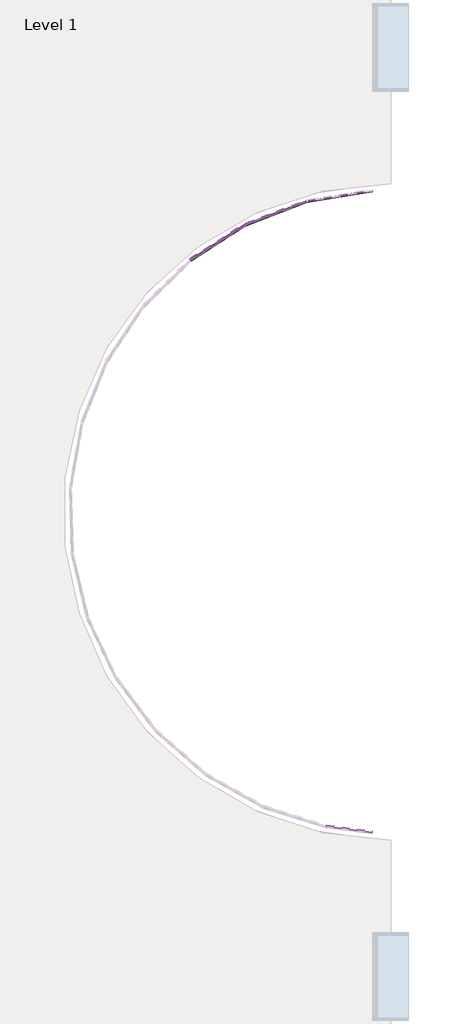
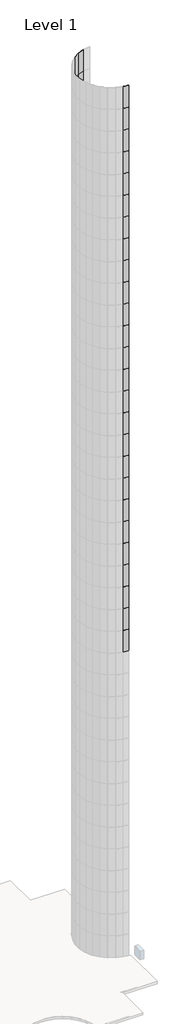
# One storey, part 14 of 19: 129 plates.
"""IFC4 building model written with IfcOpenShell, lengths in millimetres."""

from ifc_helpers import new_model, si_unit, origin, place, context, project, spatial, transform, mapped, element, save
from components import system_panel_glazed_d77d1ebf, system_panel_glazed_769dbdec

model = new_model("IFC4")

# Units and contexts
model_context = context("Model", 3, world=origin())
ifc_project = project(units=[si_unit("LENGTHUNIT", "METRE", prefix="MILLI")], contexts=[model_context])

# Site, building, storey
site = spatial("IfcSite", under=ifc_project)
building = spatial("IfcBuilding", under=site)
storey = spatial("IfcBuildingStorey", under=building, Name="Level 1", Elevation=0.0)

# Plates
placement = place(None, origin())
system_panel_glazed_shape = system_panel_glazed_d77d1ebf(model_context)
element("IfcPlate", 1, ObjectType="System Panel : Glazed", at=placement, inside=storey, context=model_context, shape_type="MappedRepresentation", body=[
    mapped(system_panel_glazed_shape, transform((18055.406941, -1819.8011089, 0.0), x_axis=(-0.9873252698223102, -0.1587098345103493, 0.0), y_axis=(0.1587098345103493, -0.9873252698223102, 0.0), z_axis=(0.0, 0.0, 1.0))),
])
element("IfcPlate", 2, ObjectType="System Panel : Glazed", at=placement, inside=storey, context=model_context, shape_type="MappedRepresentation", body=[
    mapped(system_panel_glazed_shape, transform((18055.406941, -1819.8011089, 3048.0), x_axis=(-0.9873252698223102, -0.1587098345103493, 0.0), y_axis=(0.1587098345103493, -0.9873252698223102, 0.0), z_axis=(0.0, 0.0, 1.0))),
])
element("IfcPlate", 3, ObjectType="System Panel : Glazed", at=placement, inside=storey, context=model_context, shape_type="MappedRepresentation", body=[
    mapped(system_panel_glazed_shape, transform((18055.406941, -1819.8011089, 6096.0), x_axis=(-0.9873252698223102, -0.1587098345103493, 0.0), y_axis=(0.1587098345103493, -0.9873252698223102, 0.0), z_axis=(0.0, 0.0, 1.0))),
])
element("IfcPlate", 4, ObjectType="System Panel : Glazed", at=placement, inside=storey, context=model_context, shape_type="MappedRepresentation", body=[
    mapped(system_panel_glazed_shape, transform((18055.406941, -1819.8011089, 9144.0), x_axis=(-0.9873252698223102, -0.1587098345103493, 0.0), y_axis=(0.1587098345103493, -0.9873252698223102, 0.0), z_axis=(0.0, 0.0, 1.0))),
])
element("IfcPlate", 5, ObjectType="System Panel : Glazed", at=placement, inside=storey, context=model_context, shape_type="MappedRepresentation", body=[
    mapped(system_panel_glazed_shape, transform((18055.406941, -1819.8011089, 12192.0), x_axis=(-0.9873252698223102, -0.1587098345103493, 0.0), y_axis=(0.1587098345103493, -0.9873252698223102, 0.0), z_axis=(0.0, 0.0, 1.0))),
])
element("IfcPlate", 6, ObjectType="System Panel : Glazed", at=placement, inside=storey, context=model_context, shape_type="MappedRepresentation", body=[
    mapped(system_panel_glazed_shape, transform((18055.406941, -1819.8011089, 15240.0), x_axis=(-0.9873252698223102, -0.1587098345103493, 0.0), y_axis=(0.1587098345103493, -0.9873252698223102, 0.0), z_axis=(0.0, 0.0, 1.0))),
])
element("IfcPlate", 7, ObjectType="System Panel : Glazed", at=placement, inside=storey, context=model_context, shape_type="MappedRepresentation", body=[
    mapped(system_panel_glazed_shape, transform((18055.406941, -1819.8011089, 18288.0), x_axis=(-0.9873252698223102, -0.15870983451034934, 0.0), y_axis=(0.15870983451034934, -0.9873252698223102, 0.0), z_axis=(0.0, 0.0, 1.0))),
])
element("IfcPlate", 8, ObjectType="System Panel : Glazed", at=placement, inside=storey, context=model_context, shape_type="MappedRepresentation", body=[
    mapped(system_panel_glazed_shape, transform((18055.406941, -1819.8011089, 21336.0), x_axis=(-0.9873252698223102, -0.1587098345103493, 0.0), y_axis=(0.1587098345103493, -0.9873252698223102, 0.0), z_axis=(0.0, 0.0, 1.0))),
])
element("IfcPlate", 9, ObjectType="System Panel : Glazed", at=placement, inside=storey, context=model_context, shape_type="MappedRepresentation", body=[
    mapped(system_panel_glazed_shape, transform((18055.406941, -1819.8011089, 24384.0), x_axis=(-0.9873252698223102, -0.1587098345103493, 0.0), y_axis=(0.1587098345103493, -0.9873252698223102, 0.0), z_axis=(0.0, 0.0, 1.0))),
])
element("IfcPlate", 10, ObjectType="System Panel : Glazed", at=placement, inside=storey, context=model_context, shape_type="MappedRepresentation", body=[
    mapped(system_panel_glazed_shape, transform((18055.406941, -1819.8011089, 27432.0), x_axis=(-0.9873252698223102, -0.1587098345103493, 0.0), y_axis=(0.1587098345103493, -0.9873252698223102, 0.0), z_axis=(0.0, 0.0, 1.0))),
])
element("IfcPlate", 11, ObjectType="System Panel : Glazed", at=placement, inside=storey, context=model_context, shape_type="MappedRepresentation", body=[
    mapped(system_panel_glazed_shape, transform((18055.406941, -1819.8011089, 30480.0), x_axis=(-0.9873252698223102, -0.1587098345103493, 0.0), y_axis=(0.1587098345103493, -0.9873252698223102, 0.0), z_axis=(0.0, 0.0, 1.0))),
])
element("IfcPlate", 12, ObjectType="System Panel : Glazed", at=placement, inside=storey, context=model_context, shape_type="MappedRepresentation", body=[
    mapped(system_panel_glazed_shape, transform((18055.406941, -1819.8011089, 33528.0), x_axis=(-0.9873252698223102, -0.1587098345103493, 0.0), y_axis=(0.1587098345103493, -0.9873252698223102, 0.0), z_axis=(0.0, 0.0, 1.0))),
])
element("IfcPlate", 13, ObjectType="System Panel : Glazed", at=placement, inside=storey, context=model_context, shape_type="MappedRepresentation", body=[
    mapped(system_panel_glazed_shape, transform((18055.406941, -1819.8011089, 36576.0), x_axis=(-0.9873252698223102, -0.1587098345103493, 0.0), y_axis=(0.1587098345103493, -0.9873252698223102, 0.0), z_axis=(0.0, 0.0, 1.0))),
])
element("IfcPlate", 14, ObjectType="System Panel : Glazed", at=placement, inside=storey, context=model_context, shape_type="MappedRepresentation", body=[
    mapped(system_panel_glazed_shape, transform((18055.406941, -1819.8011089, 39624.0), x_axis=(-0.9873252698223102, -0.1587098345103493, 0.0), y_axis=(0.1587098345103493, -0.9873252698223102, 0.0), z_axis=(0.0, 0.0, 1.0))),
])
element("IfcPlate", 15, ObjectType="System Panel : Glazed", at=placement, inside=storey, context=model_context, shape_type="MappedRepresentation", body=[
    mapped(system_panel_glazed_shape, transform((18055.406941, -1819.8011089, 42672.0), x_axis=(-0.9873252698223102, -0.1587098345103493, 0.0), y_axis=(0.1587098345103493, -0.9873252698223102, 0.0), z_axis=(0.0, 0.0, 1.0))),
])
element("IfcPlate", 16, ObjectType="System Panel : Glazed", at=placement, inside=storey, context=model_context, shape_type="MappedRepresentation", body=[
    mapped(system_panel_glazed_shape, transform((18055.406941, -1819.8011089, 45720.0), x_axis=(-0.9873252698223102, -0.1587098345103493, 0.0), y_axis=(0.1587098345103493, -0.9873252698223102, 0.0), z_axis=(0.0, 0.0, 1.0))),
])
element("IfcPlate", 17, ObjectType="System Panel : Glazed", at=placement, inside=storey, context=model_context, shape_type="MappedRepresentation", body=[
    mapped(system_panel_glazed_shape, transform((18055.406941, -1819.8011089, 48768.0), x_axis=(-0.9873252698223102, -0.1587098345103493, 0.0), y_axis=(0.1587098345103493, -0.9873252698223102, 0.0), z_axis=(0.0, 0.0, 1.0))),
])
element("IfcPlate", 18, ObjectType="System Panel : Glazed", at=placement, inside=storey, context=model_context, shape_type="MappedRepresentation", body=[
    mapped(system_panel_glazed_shape, transform((18055.406941, -1819.8011089, 51816.0), x_axis=(-0.9873252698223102, -0.1587098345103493, 0.0), y_axis=(0.1587098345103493, -0.9873252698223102, 0.0), z_axis=(0.0, 0.0, 1.0))),
])
element("IfcPlate", 19, ObjectType="System Panel : Glazed", at=placement, inside=storey, context=model_context, shape_type="MappedRepresentation", body=[
    mapped(system_panel_glazed_shape, transform((18055.406941, -1819.8011089, 54864.0), x_axis=(-0.9873252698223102, -0.1587098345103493, 0.0), y_axis=(0.1587098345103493, -0.9873252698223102, 0.0), z_axis=(0.0, 0.0, 1.0))),
])
element("IfcPlate", 20, ObjectType="System Panel : Glazed", at=placement, inside=storey, context=model_context, shape_type="MappedRepresentation", body=[
    mapped(system_panel_glazed_shape, transform((18055.406941, -1819.8011089, 57912.0), x_axis=(-0.9873252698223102, -0.1587098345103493, 0.0), y_axis=(0.1587098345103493, -0.9873252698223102, 0.0), z_axis=(0.0, 0.0, 1.0))),
])
element("IfcPlate", 21, ObjectType="System Panel : Glazed", at=placement, inside=storey, context=model_context, shape_type="MappedRepresentation", body=[
    mapped(system_panel_glazed_shape, transform((18055.406941, -1819.8011089, 60960.0), x_axis=(-0.9873252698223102, -0.1587098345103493, 0.0), y_axis=(0.1587098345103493, -0.9873252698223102, 0.0), z_axis=(0.0, 0.0, 1.0))),
])
element("IfcPlate", 22, ObjectType="System Panel : Glazed", at=placement, inside=storey, context=model_context, shape_type="MappedRepresentation", body=[
    mapped(system_panel_glazed_shape, transform((18055.406941, -1819.8011089, 64008.0), x_axis=(-0.9873252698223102, -0.1587098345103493, 0.0), y_axis=(0.1587098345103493, -0.9873252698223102, 0.0), z_axis=(0.0, 0.0, 1.0))),
])
element("IfcPlate", 23, ObjectType="System Panel : Glazed", at=placement, inside=storey, context=model_context, shape_type="MappedRepresentation", body=[
    mapped(system_panel_glazed_shape, transform((18055.406941, -1819.8011089, 67056.0), x_axis=(-0.9873252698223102, -0.1587098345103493, 0.0), y_axis=(0.1587098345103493, -0.9873252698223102, 0.0), z_axis=(0.0, 0.0, 1.0))),
])
element("IfcPlate", 24, ObjectType="System Panel : Glazed", at=placement, inside=storey, context=model_context, shape_type="MappedRepresentation", body=[
    mapped(system_panel_glazed_shape, transform((17176.9718599, -2055.6949526, 0.0), x_axis=(-0.9340113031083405, -0.3572434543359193, 0.0), y_axis=(0.3572434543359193, -0.9340113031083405, 0.0), z_axis=(0.0, 0.0, 1.0))),
])
element("IfcPlate", 25, ObjectType="System Panel : Glazed", at=placement, inside=storey, context=model_context, shape_type="MappedRepresentation", body=[
    mapped(system_panel_glazed_shape, transform((17176.9718599, -2055.6949526, 3048.0), x_axis=(-0.9340113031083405, -0.3572434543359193, 0.0), y_axis=(0.3572434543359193, -0.9340113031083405, 0.0), z_axis=(0.0, 0.0, 1.0))),
])
element("IfcPlate", 26, ObjectType="System Panel : Glazed", at=placement, inside=storey, context=model_context, shape_type="MappedRepresentation", body=[
    mapped(system_panel_glazed_shape, transform((17176.9718599, -2055.6949526, 6096.0), x_axis=(-0.9340113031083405, -0.3572434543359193, 0.0), y_axis=(0.3572434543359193, -0.9340113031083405, 0.0), z_axis=(0.0, 0.0, 1.0))),
])
element("IfcPlate", 27, ObjectType="System Panel : Glazed", at=placement, inside=storey, context=model_context, shape_type="MappedRepresentation", body=[
    mapped(system_panel_glazed_shape, transform((17176.9718599, -2055.6949526, 9144.0), x_axis=(-0.9340113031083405, -0.3572434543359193, 0.0), y_axis=(0.3572434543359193, -0.9340113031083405, 0.0), z_axis=(0.0, 0.0, 1.0))),
])
element("IfcPlate", 28, ObjectType="System Panel : Glazed", at=placement, inside=storey, context=model_context, shape_type="MappedRepresentation", body=[
    mapped(system_panel_glazed_shape, transform((17176.9718599, -2055.6949526, 12192.0), x_axis=(-0.9340113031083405, -0.3572434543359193, 0.0), y_axis=(0.3572434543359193, -0.9340113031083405, 0.0), z_axis=(0.0, 0.0, 1.0))),
])
element("IfcPlate", 29, ObjectType="System Panel : Glazed", at=placement, inside=storey, context=model_context, shape_type="MappedRepresentation", body=[
    mapped(system_panel_glazed_shape, transform((17176.9718599, -2055.6949526, 15240.0), x_axis=(-0.9340113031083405, -0.3572434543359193, 0.0), y_axis=(0.3572434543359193, -0.9340113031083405, 0.0), z_axis=(0.0, 0.0, 1.0))),
])
element("IfcPlate", 30, ObjectType="System Panel : Glazed", at=placement, inside=storey, context=model_context, shape_type="MappedRepresentation", body=[
    mapped(system_panel_glazed_shape, transform((17176.9718599, -2055.6949526, 18288.0), x_axis=(-0.9340113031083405, -0.35724345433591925, 0.0), y_axis=(0.35724345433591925, -0.9340113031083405, 0.0), z_axis=(0.0, 0.0, 1.0))),
])
element("IfcPlate", 31, ObjectType="System Panel : Glazed", at=placement, inside=storey, context=model_context, shape_type="MappedRepresentation", body=[
    mapped(system_panel_glazed_shape, transform((17176.9718599, -2055.6949526, 21336.0), x_axis=(-0.9340113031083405, -0.3572434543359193, 0.0), y_axis=(0.3572434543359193, -0.9340113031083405, 0.0), z_axis=(0.0, 0.0, 1.0))),
])
element("IfcPlate", 32, ObjectType="System Panel : Glazed", at=placement, inside=storey, context=model_context, shape_type="MappedRepresentation", body=[
    mapped(system_panel_glazed_shape, transform((17176.9718599, -2055.6949526, 24384.0), x_axis=(-0.9340113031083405, -0.3572434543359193, 0.0), y_axis=(0.3572434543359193, -0.9340113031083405, 0.0), z_axis=(0.0, 0.0, 1.0))),
])
element("IfcPlate", 33, ObjectType="System Panel : Glazed", at=placement, inside=storey, context=model_context, shape_type="MappedRepresentation", body=[
    mapped(system_panel_glazed_shape, transform((17176.9718599, -2055.6949526, 27432.0), x_axis=(-0.9340113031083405, -0.3572434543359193, 0.0), y_axis=(0.3572434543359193, -0.9340113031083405, 0.0), z_axis=(0.0, 0.0, 1.0))),
])
element("IfcPlate", 34, ObjectType="System Panel : Glazed", at=placement, inside=storey, context=model_context, shape_type="MappedRepresentation", body=[
    mapped(system_panel_glazed_shape, transform((17176.9718599, -2055.6949526, 30480.0), x_axis=(-0.9340113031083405, -0.3572434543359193, 0.0), y_axis=(0.3572434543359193, -0.9340113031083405, 0.0), z_axis=(0.0, 0.0, 1.0))),
])
element("IfcPlate", 35, ObjectType="System Panel : Glazed", at=placement, inside=storey, context=model_context, shape_type="MappedRepresentation", body=[
    mapped(system_panel_glazed_shape, transform((17176.9718599, -2055.6949526, 33528.0), x_axis=(-0.9340113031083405, -0.3572434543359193, 0.0), y_axis=(0.3572434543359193, -0.9340113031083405, 0.0), z_axis=(0.0, 0.0, 1.0))),
])
element("IfcPlate", 36, ObjectType="System Panel : Glazed", at=placement, inside=storey, context=model_context, shape_type="MappedRepresentation", body=[
    mapped(system_panel_glazed_shape, transform((17176.9718599, -2055.6949526, 36576.0), x_axis=(-0.9340113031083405, -0.3572434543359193, 0.0), y_axis=(0.3572434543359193, -0.9340113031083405, 0.0), z_axis=(0.0, 0.0, 1.0))),
])
element("IfcPlate", 37, ObjectType="System Panel : Glazed", at=placement, inside=storey, context=model_context, shape_type="MappedRepresentation", body=[
    mapped(system_panel_glazed_shape, transform((17176.9718599, -2055.6949526, 39624.0), x_axis=(-0.9340113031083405, -0.3572434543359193, 0.0), y_axis=(0.3572434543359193, -0.9340113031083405, 0.0), z_axis=(0.0, 0.0, 1.0))),
])
element("IfcPlate", 38, ObjectType="System Panel : Glazed", at=placement, inside=storey, context=model_context, shape_type="MappedRepresentation", body=[
    mapped(system_panel_glazed_shape, transform((17176.9718599, -2055.6949526, 42672.0), x_axis=(-0.9340113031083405, -0.3572434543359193, 0.0), y_axis=(0.3572434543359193, -0.9340113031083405, 0.0), z_axis=(0.0, 0.0, 1.0))),
])
element("IfcPlate", 39, ObjectType="System Panel : Glazed", at=placement, inside=storey, context=model_context, shape_type="MappedRepresentation", body=[
    mapped(system_panel_glazed_shape, transform((17176.9718599, -2055.6949526, 45720.0), x_axis=(-0.9340113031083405, -0.3572434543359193, 0.0), y_axis=(0.3572434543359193, -0.9340113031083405, 0.0), z_axis=(0.0, 0.0, 1.0))),
])
element("IfcPlate", 40, ObjectType="System Panel : Glazed", at=placement, inside=storey, context=model_context, shape_type="MappedRepresentation", body=[
    mapped(system_panel_glazed_shape, transform((17176.9718599, -2055.6949526, 48768.0), x_axis=(-0.9340113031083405, -0.3572434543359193, 0.0), y_axis=(0.3572434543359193, -0.9340113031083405, 0.0), z_axis=(0.0, 0.0, 1.0))),
])
element("IfcPlate", 41, ObjectType="System Panel : Glazed", at=placement, inside=storey, context=model_context, shape_type="MappedRepresentation", body=[
    mapped(system_panel_glazed_shape, transform((17176.9718599, -2055.6949526, 51816.0), x_axis=(-0.9340113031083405, -0.3572434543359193, 0.0), y_axis=(0.3572434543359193, -0.9340113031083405, 0.0), z_axis=(0.0, 0.0, 1.0))),
])
element("IfcPlate", 42, ObjectType="System Panel : Glazed", at=placement, inside=storey, context=model_context, shape_type="MappedRepresentation", body=[
    mapped(system_panel_glazed_shape, transform((17176.9718599, -2055.6949526, 54864.0), x_axis=(-0.9340113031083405, -0.3572434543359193, 0.0), y_axis=(0.3572434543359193, -0.9340113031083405, 0.0), z_axis=(0.0, 0.0, 1.0))),
])
element("IfcPlate", 43, ObjectType="System Panel : Glazed", at=placement, inside=storey, context=model_context, shape_type="MappedRepresentation", body=[
    mapped(system_panel_glazed_shape, transform((17176.9718599, -2055.6949526, 57912.0), x_axis=(-0.9340113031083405, -0.3572434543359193, 0.0), y_axis=(0.3572434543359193, -0.9340113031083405, 0.0), z_axis=(0.0, 0.0, 1.0))),
])
element("IfcPlate", 44, ObjectType="System Panel : Glazed", at=placement, inside=storey, context=model_context, shape_type="MappedRepresentation", body=[
    mapped(system_panel_glazed_shape, transform((17176.9718599, -2055.6949526, 60960.0), x_axis=(-0.9340113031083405, -0.3572434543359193, 0.0), y_axis=(0.3572434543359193, -0.9340113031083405, 0.0), z_axis=(0.0, 0.0, 1.0))),
])
element("IfcPlate", 45, ObjectType="System Panel : Glazed", at=placement, inside=storey, context=model_context, shape_type="MappedRepresentation", body=[
    mapped(system_panel_glazed_shape, transform((17176.9718599, -2055.6949526, 64008.0), x_axis=(-0.9340113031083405, -0.3572434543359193, 0.0), y_axis=(0.3572434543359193, -0.9340113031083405, 0.0), z_axis=(0.0, 0.0, 1.0))),
])
element("IfcPlate", 46, ObjectType="System Panel : Glazed", at=placement, inside=storey, context=model_context, shape_type="MappedRepresentation", body=[
    mapped(system_panel_glazed_shape, transform((17176.9718599, -2055.6949526, 67056.0), x_axis=(-0.9340113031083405, -0.3572434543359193, 0.0), y_axis=(0.3572434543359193, -0.9340113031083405, 0.0), z_axis=(0.0, 0.0, 1.0))),
])
element("IfcPlate", 47, ObjectType="System Panel : Glazed", at=placement, inside=storey, context=model_context, shape_type="MappedRepresentation", body=[
    mapped(system_panel_glazed_shape, transform((17176.9718599, -2055.6949526, 70104.0), x_axis=(-0.9340113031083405, -0.3572434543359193, 0.0), y_axis=(0.3572434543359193, -0.9340113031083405, 0.0), z_axis=(0.0, 0.0, 1.0))),
])
element("IfcPlate", 48, ObjectType="System Panel : Glazed", at=placement, inside=storey, context=model_context, shape_type="MappedRepresentation", body=[
    mapped(system_panel_glazed_shape, transform((17176.9718599, -2055.6949526, 73152.0), x_axis=(-0.9340113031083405, -0.3572434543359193, 0.0), y_axis=(0.3572434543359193, -0.9340113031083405, 0.0), z_axis=(0.0, 0.0, 1.0))),
])
element("IfcPlate", 49, ObjectType="System Panel : Glazed", at=placement, inside=storey, context=model_context, shape_type="MappedRepresentation", body=[
    mapped(system_panel_glazed_shape, transform((17176.9718599, -2055.6949526, 76200.0), x_axis=(-0.9340113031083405, -0.3572434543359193, 0.0), y_axis=(0.3572434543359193, -0.9340113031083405, 0.0), z_axis=(0.0, 0.0, 1.0))),
])
element("IfcPlate", 50, ObjectType="System Panel : Glazed", at=placement, inside=storey, context=model_context, shape_type="MappedRepresentation", body=[
    mapped(system_panel_glazed_shape, transform((17176.9718599, -2055.6949526, 79248.0), x_axis=(-0.9340113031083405, -0.3572434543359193, 0.0), y_axis=(0.3572434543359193, -0.9340113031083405, 0.0), z_axis=(0.0, 0.0, 1.0))),
])
element("IfcPlate", 51, ObjectType="System Panel : Glazed", at=placement, inside=storey, context=model_context, shape_type="MappedRepresentation", body=[
    mapped(system_panel_glazed_shape, transform((17176.9718599, -2055.6949526, 82296.0), x_axis=(-0.9340113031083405, -0.3572434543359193, 0.0), y_axis=(0.3572434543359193, -0.9340113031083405, 0.0), z_axis=(0.0, 0.0, 1.0))),
])
element("IfcPlate", 52, ObjectType="System Panel : Glazed", at=placement, inside=storey, context=model_context, shape_type="MappedRepresentation", body=[
    mapped(system_panel_glazed_shape, transform((17176.9718599, -2055.6949526, 85344.0), x_axis=(-0.9340113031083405, -0.3572434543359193, 0.0), y_axis=(0.3572434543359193, -0.9340113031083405, 0.0), z_axis=(0.0, 0.0, 1.0))),
])
element("IfcPlate", 53, ObjectType="System Panel : Glazed", at=placement, inside=storey, context=model_context, shape_type="MappedRepresentation", body=[
    mapped(system_panel_glazed_shape, transform((17176.9718599, -2055.6949526, 88392.0), x_axis=(-0.9340113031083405, -0.3572434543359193, 0.0), y_axis=(0.3572434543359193, -0.9340113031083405, 0.0), z_axis=(0.0, 0.0, 1.0))),
])
element("IfcPlate", 54, ObjectType="System Panel : Glazed", at=placement, inside=storey, context=model_context, shape_type="MappedRepresentation", body=[
    mapped(system_panel_glazed_shape, transform((17176.9718599, -2055.6949526, 91440.0), x_axis=(-0.9340113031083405, -0.3572434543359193, 0.0), y_axis=(0.3572434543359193, -0.9340113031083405, 0.0), z_axis=(0.0, 0.0, 1.0))),
])
element("IfcPlate", 55, ObjectType="System Panel : Glazed", at=placement, inside=storey, context=model_context, shape_type="MappedRepresentation", body=[
    mapped(system_panel_glazed_shape, transform((17176.9718599, -2055.6949526, 94488.0), x_axis=(-0.9340113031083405, -0.3572434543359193, 0.0), y_axis=(0.3572434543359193, -0.9340113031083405, 0.0), z_axis=(0.0, 0.0, 1.0))),
])
element("IfcPlate", 56, ObjectType="System Panel : Glazed", at=placement, inside=storey, context=model_context, shape_type="MappedRepresentation", body=[
    mapped(system_panel_glazed_shape, transform((17176.9718599, -2055.6949526, 97536.0), x_axis=(-0.9340113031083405, -0.3572434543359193, 0.0), y_axis=(0.3572434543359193, -0.9340113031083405, 0.0), z_axis=(0.0, 0.0, 1.0))),
])
element("IfcPlate", 57, ObjectType="System Panel : Glazed", at=placement, inside=storey, context=model_context, shape_type="MappedRepresentation", body=[
    mapped(system_panel_glazed_shape, transform((17176.9718599, -2055.6949526, 100584.0), x_axis=(-0.9340113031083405, -0.3572434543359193, 0.0), y_axis=(0.3572434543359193, -0.9340113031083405, 0.0), z_axis=(0.0, 0.0, 1.0))),
])
element("IfcPlate", 58, ObjectType="System Panel : Glazed", at=placement, inside=storey, context=model_context, shape_type="MappedRepresentation", body=[
    mapped(system_panel_glazed_shape, transform((16365.3324925, -2466.2258707, 0.0), x_axis=(-0.8412279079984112, -0.5406806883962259, 0.0), y_axis=(0.5406806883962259, -0.8412279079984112, 0.0), z_axis=(0.0, 0.0, 1.0))),
])
element("IfcPlate", 59, ObjectType="System Panel : Glazed", at=placement, inside=storey, context=model_context, shape_type="MappedRepresentation", body=[
    mapped(system_panel_glazed_shape, transform((16365.3324925, -2466.2258707, 3048.0), x_axis=(-0.8412279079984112, -0.5406806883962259, 0.0), y_axis=(0.5406806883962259, -0.8412279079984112, 0.0), z_axis=(0.0, 0.0, 1.0))),
])
element("IfcPlate", 60, ObjectType="System Panel : Glazed", at=placement, inside=storey, context=model_context, shape_type="MappedRepresentation", body=[
    mapped(system_panel_glazed_shape, transform((16365.3324925, -2466.2258707, 6096.0), x_axis=(-0.8412279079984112, -0.5406806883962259, 0.0), y_axis=(0.5406806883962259, -0.8412279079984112, 0.0), z_axis=(0.0, 0.0, 1.0))),
])
element("IfcPlate", 61, ObjectType="System Panel : Glazed", at=placement, inside=storey, context=model_context, shape_type="MappedRepresentation", body=[
    mapped(system_panel_glazed_shape, transform((16365.3324925, -2466.2258707, 9144.0), x_axis=(-0.8412279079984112, -0.5406806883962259, 0.0), y_axis=(0.5406806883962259, -0.8412279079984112, 0.0), z_axis=(0.0, 0.0, 1.0))),
])
element("IfcPlate", 62, ObjectType="System Panel : Glazed", at=placement, inside=storey, context=model_context, shape_type="MappedRepresentation", body=[
    mapped(system_panel_glazed_shape, transform((16365.3324925, -2466.2258707, 12192.0), x_axis=(-0.8412279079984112, -0.5406806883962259, 0.0), y_axis=(0.5406806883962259, -0.8412279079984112, 0.0), z_axis=(0.0, 0.0, 1.0))),
])
element("IfcPlate", 63, ObjectType="System Panel : Glazed", at=placement, inside=storey, context=model_context, shape_type="MappedRepresentation", body=[
    mapped(system_panel_glazed_shape, transform((16365.3324925, -2466.2258707, 15240.0), x_axis=(-0.8412279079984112, -0.5406806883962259, 0.0), y_axis=(0.5406806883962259, -0.8412279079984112, 0.0), z_axis=(0.0, 0.0, 1.0))),
])
element("IfcPlate", 64, ObjectType="System Panel : Glazed", at=placement, inside=storey, context=model_context, shape_type="MappedRepresentation", body=[
    mapped(system_panel_glazed_shape, transform((16365.3324925, -2466.2258707, 18288.0), x_axis=(-0.8412279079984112, -0.5406806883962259, 0.0), y_axis=(0.5406806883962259, -0.8412279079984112, 0.0), z_axis=(0.0, 0.0, 1.0))),
])
element("IfcPlate", 65, ObjectType="System Panel : Glazed", at=placement, inside=storey, context=model_context, shape_type="MappedRepresentation", body=[
    mapped(system_panel_glazed_shape, transform((16365.3324925, -2466.2258707, 21336.0), x_axis=(-0.8412279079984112, -0.5406806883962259, 0.0), y_axis=(0.5406806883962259, -0.8412279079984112, 0.0), z_axis=(0.0, 0.0, 1.0))),
])
element("IfcPlate", 66, ObjectType="System Panel : Glazed", at=placement, inside=storey, context=model_context, shape_type="MappedRepresentation", body=[
    mapped(system_panel_glazed_shape, transform((16365.3324925, -2466.2258707, 24384.0), x_axis=(-0.8412279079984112, -0.5406806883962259, 0.0), y_axis=(0.5406806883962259, -0.8412279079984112, 0.0), z_axis=(0.0, 0.0, 1.0))),
])
element("IfcPlate", 67, ObjectType="System Panel : Glazed", at=placement, inside=storey, context=model_context, shape_type="MappedRepresentation", body=[
    mapped(system_panel_glazed_shape, transform((16365.3324925, -2466.2258707, 27432.0), x_axis=(-0.8412279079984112, -0.5406806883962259, 0.0), y_axis=(0.5406806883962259, -0.8412279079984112, 0.0), z_axis=(0.0, 0.0, 1.0))),
])
element("IfcPlate", 68, ObjectType="System Panel : Glazed", at=placement, inside=storey, context=model_context, shape_type="MappedRepresentation", body=[
    mapped(system_panel_glazed_shape, transform((16365.3324925, -2466.2258707, 30480.0), x_axis=(-0.8412279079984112, -0.5406806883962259, 0.0), y_axis=(0.5406806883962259, -0.8412279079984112, 0.0), z_axis=(0.0, 0.0, 1.0))),
])
element("IfcPlate", 69, ObjectType="System Panel : Glazed", at=placement, inside=storey, context=model_context, shape_type="MappedRepresentation", body=[
    mapped(system_panel_glazed_shape, transform((16365.3324925, -2466.2258707, 33528.0), x_axis=(-0.8412279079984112, -0.5406806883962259, 0.0), y_axis=(0.5406806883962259, -0.8412279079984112, 0.0), z_axis=(0.0, 0.0, 1.0))),
])
element("IfcPlate", 70, ObjectType="System Panel : Glazed", at=placement, inside=storey, context=model_context, shape_type="MappedRepresentation", body=[
    mapped(system_panel_glazed_shape, transform((16365.3324925, -2466.2258707, 36576.0), x_axis=(-0.8412279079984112, -0.5406806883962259, 0.0), y_axis=(0.5406806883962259, -0.8412279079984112, 0.0), z_axis=(0.0, 0.0, 1.0))),
])
element("IfcPlate", 71, ObjectType="System Panel : Glazed", at=placement, inside=storey, context=model_context, shape_type="MappedRepresentation", body=[
    mapped(system_panel_glazed_shape, transform((16365.3324925, -2466.2258707, 39624.0), x_axis=(-0.8412279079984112, -0.5406806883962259, 0.0), y_axis=(0.5406806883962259, -0.8412279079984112, 0.0), z_axis=(0.0, 0.0, 1.0))),
])
element("IfcPlate", 72, ObjectType="System Panel : Glazed", at=placement, inside=storey, context=model_context, shape_type="MappedRepresentation", body=[
    mapped(system_panel_glazed_shape, transform((16365.3324925, -2466.2258707, 42672.0), x_axis=(-0.8412279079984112, -0.5406806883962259, 0.0), y_axis=(0.5406806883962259, -0.8412279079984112, 0.0), z_axis=(0.0, 0.0, 1.0))),
])
element("IfcPlate", 73, ObjectType="System Panel : Glazed", at=placement, inside=storey, context=model_context, shape_type="MappedRepresentation", body=[
    mapped(system_panel_glazed_shape, transform((16365.3324925, -2466.2258707, 45720.0), x_axis=(-0.8412279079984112, -0.5406806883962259, 0.0), y_axis=(0.5406806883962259, -0.8412279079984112, 0.0), z_axis=(0.0, 0.0, 1.0))),
])
element("IfcPlate", 74, ObjectType="System Panel : Glazed", at=placement, inside=storey, context=model_context, shape_type="MappedRepresentation", body=[
    mapped(system_panel_glazed_shape, transform((16365.3324925, -2466.2258707, 48768.0), x_axis=(-0.8412279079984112, -0.5406806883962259, 0.0), y_axis=(0.5406806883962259, -0.8412279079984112, 0.0), z_axis=(0.0, 0.0, 1.0))),
])
element("IfcPlate", 75, ObjectType="System Panel : Glazed", at=placement, inside=storey, context=model_context, shape_type="MappedRepresentation", body=[
    mapped(system_panel_glazed_shape, transform((16365.3324925, -2466.2258707, 51816.0), x_axis=(-0.8412279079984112, -0.5406806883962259, 0.0), y_axis=(0.5406806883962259, -0.8412279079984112, 0.0), z_axis=(0.0, 0.0, 1.0))),
])
element("IfcPlate", 76, ObjectType="System Panel : Glazed", at=placement, inside=storey, context=model_context, shape_type="MappedRepresentation", body=[
    mapped(system_panel_glazed_shape, transform((16365.3324925, -2466.2258707, 54864.0), x_axis=(-0.8412279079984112, -0.5406806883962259, 0.0), y_axis=(0.5406806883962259, -0.8412279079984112, 0.0), z_axis=(0.0, 0.0, 1.0))),
])
element("IfcPlate", 77, ObjectType="System Panel : Glazed", at=placement, inside=storey, context=model_context, shape_type="MappedRepresentation", body=[
    mapped(system_panel_glazed_shape, transform((16365.3324925, -2466.2258707, 57912.0), x_axis=(-0.8412279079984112, -0.5406806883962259, 0.0), y_axis=(0.5406806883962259, -0.8412279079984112, 0.0), z_axis=(0.0, 0.0, 1.0))),
])
element("IfcPlate", 78, ObjectType="System Panel : Glazed", at=placement, inside=storey, context=model_context, shape_type="MappedRepresentation", body=[
    mapped(system_panel_glazed_shape, transform((16365.3324925, -2466.2258707, 60960.0), x_axis=(-0.8412279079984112, -0.5406806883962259, 0.0), y_axis=(0.5406806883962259, -0.8412279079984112, 0.0), z_axis=(0.0, 0.0, 1.0))),
])
element("IfcPlate", 79, ObjectType="System Panel : Glazed", at=placement, inside=storey, context=model_context, shape_type="MappedRepresentation", body=[
    mapped(system_panel_glazed_shape, transform((16365.3324925, -2466.2258707, 64008.0), x_axis=(-0.8412279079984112, -0.5406806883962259, 0.0), y_axis=(0.5406806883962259, -0.8412279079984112, 0.0), z_axis=(0.0, 0.0, 1.0))),
])
element("IfcPlate", 80, ObjectType="System Panel : Glazed", at=placement, inside=storey, context=model_context, shape_type="MappedRepresentation", body=[
    mapped(system_panel_glazed_shape, transform((16365.3324925, -2466.2258707, 67056.0), x_axis=(-0.8412279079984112, -0.5406806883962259, 0.0), y_axis=(0.5406806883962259, -0.8412279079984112, 0.0), z_axis=(0.0, 0.0, 1.0))),
])
element("IfcPlate", 81, ObjectType="System Panel : Glazed", at=placement, inside=storey, context=model_context, shape_type="MappedRepresentation", body=[
    mapped(system_panel_glazed_shape, transform((16365.3324925, -2466.2258707, 70104.0), x_axis=(-0.8412279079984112, -0.5406806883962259, 0.0), y_axis=(0.5406806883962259, -0.8412279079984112, 0.0), z_axis=(0.0, 0.0, 1.0))),
])
element("IfcPlate", 82, ObjectType="System Panel : Glazed", at=placement, inside=storey, context=model_context, shape_type="MappedRepresentation", body=[
    mapped(system_panel_glazed_shape, transform((16365.3324925, -2466.2258707, 73152.0), x_axis=(-0.8412279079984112, -0.5406806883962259, 0.0), y_axis=(0.5406806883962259, -0.8412279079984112, 0.0), z_axis=(0.0, 0.0, 1.0))),
])
element("IfcPlate", 83, ObjectType="System Panel : Glazed", at=placement, inside=storey, context=model_context, shape_type="MappedRepresentation", body=[
    mapped(system_panel_glazed_shape, transform((16365.3324925, -2466.2258707, 76200.0), x_axis=(-0.8412279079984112, -0.5406806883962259, 0.0), y_axis=(0.5406806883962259, -0.8412279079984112, 0.0), z_axis=(0.0, 0.0, 1.0))),
])
element("IfcPlate", 84, ObjectType="System Panel : Glazed", at=placement, inside=storey, context=model_context, shape_type="MappedRepresentation", body=[
    mapped(system_panel_glazed_shape, transform((16365.3324925, -2466.2258707, 79248.0), x_axis=(-0.8412279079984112, -0.5406806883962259, 0.0), y_axis=(0.5406806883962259, -0.8412279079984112, 0.0), z_axis=(0.0, 0.0, 1.0))),
])
element("IfcPlate", 85, ObjectType="System Panel : Glazed", at=placement, inside=storey, context=model_context, shape_type="MappedRepresentation", body=[
    mapped(system_panel_glazed_shape, transform((16365.3324925, -2466.2258707, 82296.0), x_axis=(-0.8412279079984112, -0.5406806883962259, 0.0), y_axis=(0.5406806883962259, -0.8412279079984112, 0.0), z_axis=(0.0, 0.0, 1.0))),
])
element("IfcPlate", 86, ObjectType="System Panel : Glazed", at=placement, inside=storey, context=model_context, shape_type="MappedRepresentation", body=[
    mapped(system_panel_glazed_shape, transform((16365.3324925, -2466.2258707, 85344.0), x_axis=(-0.8412279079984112, -0.5406806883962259, 0.0), y_axis=(0.5406806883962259, -0.8412279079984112, 0.0), z_axis=(0.0, 0.0, 1.0))),
])
element("IfcPlate", 87, ObjectType="System Panel : Glazed", at=placement, inside=storey, context=model_context, shape_type="MappedRepresentation", body=[
    mapped(system_panel_glazed_shape, transform((16365.3324925, -2466.2258707, 88392.0), x_axis=(-0.8412279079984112, -0.5406806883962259, 0.0), y_axis=(0.5406806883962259, -0.8412279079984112, 0.0), z_axis=(0.0, 0.0, 1.0))),
])
element("IfcPlate", 88, ObjectType="System Panel : Glazed", at=placement, inside=storey, context=model_context, shape_type="MappedRepresentation", body=[
    mapped(system_panel_glazed_shape, transform((16365.3324925, -2466.2258707, 91440.0), x_axis=(-0.8412279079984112, -0.5406806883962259, 0.0), y_axis=(0.5406806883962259, -0.8412279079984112, 0.0), z_axis=(0.0, 0.0, 1.0))),
])
element("IfcPlate", 89, ObjectType="System Panel : Glazed", at=placement, inside=storey, context=model_context, shape_type="MappedRepresentation", body=[
    mapped(system_panel_glazed_shape, transform((16365.3324925, -2466.2258707, 94488.0), x_axis=(-0.8412279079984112, -0.5406806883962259, 0.0), y_axis=(0.5406806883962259, -0.8412279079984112, 0.0), z_axis=(0.0, 0.0, 1.0))),
])
element("IfcPlate", 90, ObjectType="System Panel : Glazed", at=placement, inside=storey, context=model_context, shape_type="MappedRepresentation", body=[
    mapped(system_panel_glazed_shape, transform((16365.3324925, -2466.2258707, 97536.0), x_axis=(-0.8412279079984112, -0.5406806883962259, 0.0), y_axis=(0.5406806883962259, -0.8412279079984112, 0.0), z_axis=(0.0, 0.0, 1.0))),
])
element("IfcPlate", 91, ObjectType="System Panel : Glazed", at=placement, inside=storey, context=model_context, shape_type="MappedRepresentation", body=[
    mapped(system_panel_glazed_shape, transform((16365.3324925, -2466.2258707, 100584.0), x_axis=(-0.8412279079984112, -0.5406806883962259, 0.0), y_axis=(0.5406806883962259, -0.8412279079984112, 0.0), z_axis=(0.0, 0.0, 1.0))),
])
element("IfcPlate", 92, ObjectType="System Panel : Glazed", at=placement, inside=storey, context=model_context, shape_type="MappedRepresentation", body=[
    mapped(system_panel_glazed_shape, transform((17176.9718599, -2055.6949526, 103632.0), x_axis=(-0.9340113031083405, -0.3572434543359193, 0.0), y_axis=(0.3572434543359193, -0.9340113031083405, 0.0), z_axis=(0.0, 0.0, 1.0))),
])
element("IfcPlate", 93, ObjectType="System Panel : Glazed", at=placement, inside=storey, context=model_context, shape_type="MappedRepresentation", body=[
    mapped(system_panel_glazed_shape, transform((16365.3324925, -2466.2258707, 103632.0), x_axis=(-0.8412279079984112, -0.5406806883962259, 0.0), y_axis=(0.5406806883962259, -0.8412279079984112, 0.0), z_axis=(0.0, 0.0, 1.0))),
])
element("IfcPlate", 94, ObjectType="System Panel : Glazed", at=placement, inside=storey, context=model_context, shape_type="MappedRepresentation", body=[
    mapped(system_panel_glazed_shape, transform((17176.9718599, -2055.6949526, 106680.0), x_axis=(-0.9340113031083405, -0.3572434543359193, 0.0), y_axis=(0.3572434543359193, -0.9340113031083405, 0.0), z_axis=(0.0, 0.0, 1.0))),
])
element("IfcPlate", 95, ObjectType="System Panel : Glazed", at=placement, inside=storey, context=model_context, shape_type="MappedRepresentation", body=[
    mapped(system_panel_glazed_shape, transform((16365.3324925, -2466.2258707, 106680.0), x_axis=(-0.8412279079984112, -0.5406806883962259, 0.0), y_axis=(0.5406806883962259, -0.8412279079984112, 0.0), z_axis=(0.0, 0.0, 1.0))),
])
element("IfcPlate", 96, ObjectType="System Panel : Glazed", at=placement, inside=storey, context=model_context, shape_type="MappedRepresentation", body=[
    mapped(system_panel_glazed_shape, transform((17176.9718599, -2055.6949526, 109728.0), x_axis=(-0.9340113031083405, -0.3572434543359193, 0.0), y_axis=(0.3572434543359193, -0.9340113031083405, 0.0), z_axis=(0.0, 0.0, 1.0))),
])
element("IfcPlate", 97, ObjectType="System Panel : Glazed", at=placement, inside=storey, context=model_context, shape_type="MappedRepresentation", body=[
    mapped(system_panel_glazed_shape, transform((16365.3324925, -2466.2258707, 109728.0), x_axis=(-0.8412279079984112, -0.5406806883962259, 0.0), y_axis=(0.5406806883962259, -0.8412279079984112, 0.0), z_axis=(0.0, 0.0, 1.0))),
])
element("IfcPlate", 98, ObjectType="System Panel : Glazed", at=placement, inside=storey, context=model_context, shape_type="MappedRepresentation", body=[
    mapped(system_panel_glazed_shape, transform((17176.9718599, -2055.6949526, 112776.0), x_axis=(-0.9340113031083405, -0.3572434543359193, 0.0), y_axis=(0.3572434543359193, -0.9340113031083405, 0.0), z_axis=(0.0, 0.0, 1.0))),
])
element("IfcPlate", 99, ObjectType="System Panel : Glazed", at=placement, inside=storey, context=model_context, shape_type="MappedRepresentation", body=[
    mapped(system_panel_glazed_shape, transform((16365.3324925, -2466.2258707, 112776.0), x_axis=(-0.8412279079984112, -0.5406806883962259, 0.0), y_axis=(0.5406806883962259, -0.8412279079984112, 0.0), z_axis=(0.0, 0.0, 1.0))),
])
element("IfcPlate", 100, ObjectType="System Panel : Glazed", at=placement, inside=storey, context=model_context, shape_type="MappedRepresentation", body=[
    mapped(system_panel_glazed_shape, transform((17176.9718599, -2055.6949526, 115824.0), x_axis=(-0.9340113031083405, -0.3572434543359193, 0.0), y_axis=(0.3572434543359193, -0.9340113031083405, 0.0), z_axis=(0.0, 0.0, 1.0))),
])
element("IfcPlate", 101, ObjectType="System Panel : Glazed", at=placement, inside=storey, context=model_context, shape_type="MappedRepresentation", body=[
    mapped(system_panel_glazed_shape, transform((16365.3324925, -2466.2258707, 115824.0), x_axis=(-0.8412279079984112, -0.5406806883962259, 0.0), y_axis=(0.5406806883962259, -0.8412279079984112, 0.0), z_axis=(0.0, 0.0, 1.0))),
])
element("IfcPlate", 102, ObjectType="System Panel : Glazed", at=placement, inside=storey, context=model_context, shape_type="MappedRepresentation", body=[
    mapped(system_panel_glazed_shape, transform((17176.9718599, -2055.6949526, 118872.0), x_axis=(-0.9340113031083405, -0.3572434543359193, 0.0), y_axis=(0.3572434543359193, -0.9340113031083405, 0.0), z_axis=(0.0, 0.0, 1.0))),
])
element("IfcPlate", 103, ObjectType="System Panel : Glazed", at=placement, inside=storey, context=model_context, shape_type="MappedRepresentation", body=[
    mapped(system_panel_glazed_shape, transform((16365.3324925, -2466.2258707, 118872.0), x_axis=(-0.8412279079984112, -0.5406806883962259, 0.0), y_axis=(0.5406806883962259, -0.8412279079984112, 0.0), z_axis=(0.0, 0.0, 1.0))),
])
system_panel_glazed_2_shape = system_panel_glazed_769dbdec(model_context)
element("IfcPlate", 104, ObjectType="System Panel : Glazed", at=placement, inside=storey, context=model_context, shape_type="MappedRepresentation", body=[
    mapped(system_panel_glazed_2_shape, transform((18185.706128, -10587.6892472, 42672.0), x_axis=(0.9916551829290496, -0.12891857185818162, 0.0), y_axis=(0.12891857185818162, 0.9916551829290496, 0.0), z_axis=(0.0, 0.0, 1.0))),
])
element("IfcPlate", 105, ObjectType="System Panel : Glazed", at=placement, inside=storey, context=model_context, shape_type="MappedRepresentation", body=[
    mapped(system_panel_glazed_2_shape, transform((18185.706128, -10587.6892472, 45720.0), x_axis=(0.9916551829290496, -0.12891857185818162, 0.0), y_axis=(0.12891857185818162, 0.9916551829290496, 0.0), z_axis=(0.0, 0.0, 1.0))),
])
element("IfcPlate", 106, ObjectType="System Panel : Glazed", at=placement, inside=storey, context=model_context, shape_type="MappedRepresentation", body=[
    mapped(system_panel_glazed_2_shape, transform((18185.706128, -10587.6892472, 48768.0), x_axis=(0.9916551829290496, -0.12891857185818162, 0.0), y_axis=(0.12891857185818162, 0.9916551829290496, 0.0), z_axis=(0.0, 0.0, 1.0))),
])
element("IfcPlate", 107, ObjectType="System Panel : Glazed", at=placement, inside=storey, context=model_context, shape_type="MappedRepresentation", body=[
    mapped(system_panel_glazed_2_shape, transform((18185.706128, -10587.6892472, 51816.0), x_axis=(0.9916551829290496, -0.12891857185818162, 0.0), y_axis=(0.12891857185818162, 0.9916551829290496, 0.0), z_axis=(0.0, 0.0, 1.0))),
])
element("IfcPlate", 108, ObjectType="System Panel : Glazed", at=placement, inside=storey, context=model_context, shape_type="MappedRepresentation", body=[
    mapped(system_panel_glazed_2_shape, transform((18185.706128, -10587.6892472, 54864.0), x_axis=(0.9916551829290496, -0.12891857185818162, 0.0), y_axis=(0.12891857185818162, 0.9916551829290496, 0.0), z_axis=(0.0, 0.0, 1.0))),
])
element("IfcPlate", 109, ObjectType="System Panel : Glazed", at=placement, inside=storey, context=model_context, shape_type="MappedRepresentation", body=[
    mapped(system_panel_glazed_2_shape, transform((18185.706128, -10587.6892472, 57912.0), x_axis=(0.9916551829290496, -0.12891857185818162, 0.0), y_axis=(0.12891857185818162, 0.9916551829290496, 0.0), z_axis=(0.0, 0.0, 1.0))),
])
element("IfcPlate", 110, ObjectType="System Panel : Glazed", at=placement, inside=storey, context=model_context, shape_type="MappedRepresentation", body=[
    mapped(system_panel_glazed_2_shape, transform((18185.706128, -10587.6892472, 60960.0), x_axis=(0.9916551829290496, -0.12891857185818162, 0.0), y_axis=(0.12891857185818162, 0.9916551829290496, 0.0), z_axis=(0.0, 0.0, 1.0))),
])
element("IfcPlate", 111, ObjectType="System Panel : Glazed", at=placement, inside=storey, context=model_context, shape_type="MappedRepresentation", body=[
    mapped(system_panel_glazed_2_shape, transform((18185.706128, -10587.6892472, 64008.0), x_axis=(0.9916551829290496, -0.12891857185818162, 0.0), y_axis=(0.12891857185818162, 0.9916551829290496, 0.0), z_axis=(0.0, 0.0, 1.0))),
])
element("IfcPlate", 112, ObjectType="System Panel : Glazed", at=placement, inside=storey, context=model_context, shape_type="MappedRepresentation", body=[
    mapped(system_panel_glazed_2_shape, transform((18185.706128, -10587.6892472, 67056.0), x_axis=(0.9916551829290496, -0.12891857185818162, 0.0), y_axis=(0.12891857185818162, 0.9916551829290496, 0.0), z_axis=(0.0, 0.0, 1.0))),
])
element("IfcPlate", 113, ObjectType="System Panel : Glazed", at=placement, inside=storey, context=model_context, shape_type="MappedRepresentation", body=[
    mapped(system_panel_glazed_2_shape, transform((18185.706128, -10587.6892472, 70104.0), x_axis=(0.9916551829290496, -0.12891857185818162, 0.0), y_axis=(0.12891857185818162, 0.9916551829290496, 0.0), z_axis=(0.0, 0.0, 1.0))),
])
element("IfcPlate", 114, ObjectType="System Panel : Glazed", at=placement, inside=storey, context=model_context, shape_type="MappedRepresentation", body=[
    mapped(system_panel_glazed_2_shape, transform((18185.706128, -10587.6892472, 73152.0), x_axis=(0.9916551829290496, -0.12891857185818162, 0.0), y_axis=(0.12891857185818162, 0.9916551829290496, 0.0), z_axis=(0.0, 0.0, 1.0))),
])
element("IfcPlate", 115, ObjectType="System Panel : Glazed", at=placement, inside=storey, context=model_context, shape_type="MappedRepresentation", body=[
    mapped(system_panel_glazed_2_shape, transform((18185.706128, -10587.6892472, 76200.0), x_axis=(0.9916551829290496, -0.12891857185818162, 0.0), y_axis=(0.12891857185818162, 0.9916551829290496, 0.0), z_axis=(0.0, 0.0, 1.0))),
])
element("IfcPlate", 116, ObjectType="System Panel : Glazed", at=placement, inside=storey, context=model_context, shape_type="MappedRepresentation", body=[
    mapped(system_panel_glazed_2_shape, transform((18185.706128, -10587.6892472, 79248.0), x_axis=(0.9916551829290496, -0.12891857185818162, 0.0), y_axis=(0.12891857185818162, 0.9916551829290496, 0.0), z_axis=(0.0, 0.0, 1.0))),
])
element("IfcPlate", 117, ObjectType="System Panel : Glazed", at=placement, inside=storey, context=model_context, shape_type="MappedRepresentation", body=[
    mapped(system_panel_glazed_2_shape, transform((18185.706128, -10587.6892472, 82296.0), x_axis=(0.9916551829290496, -0.12891857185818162, 0.0), y_axis=(0.12891857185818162, 0.9916551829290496, 0.0), z_axis=(0.0, 0.0, 1.0))),
])
element("IfcPlate", 118, ObjectType="System Panel : Glazed", at=placement, inside=storey, context=model_context, shape_type="MappedRepresentation", body=[
    mapped(system_panel_glazed_2_shape, transform((18185.706128, -10587.6892472, 85344.0), x_axis=(0.9916551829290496, -0.12891857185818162, 0.0), y_axis=(0.12891857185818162, 0.9916551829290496, 0.0), z_axis=(0.0, 0.0, 1.0))),
])
element("IfcPlate", 119, ObjectType="System Panel : Glazed", at=placement, inside=storey, context=model_context, shape_type="MappedRepresentation", body=[
    mapped(system_panel_glazed_2_shape, transform((18185.706128, -10587.6892472, 88392.0), x_axis=(0.9916551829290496, -0.12891857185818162, 0.0), y_axis=(0.12891857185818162, 0.9916551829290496, 0.0), z_axis=(0.0, 0.0, 1.0))),
])
element("IfcPlate", 120, ObjectType="System Panel : Glazed", at=placement, inside=storey, context=model_context, shape_type="MappedRepresentation", body=[
    mapped(system_panel_glazed_2_shape, transform((18185.706128, -10587.6892472, 91440.0), x_axis=(0.9916551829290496, -0.12891857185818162, 0.0), y_axis=(0.12891857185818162, 0.9916551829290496, 0.0), z_axis=(0.0, 0.0, 1.0))),
])
element("IfcPlate", 121, ObjectType="System Panel : Glazed", at=placement, inside=storey, context=model_context, shape_type="MappedRepresentation", body=[
    mapped(system_panel_glazed_2_shape, transform((18185.706128, -10587.6892472, 94488.0), x_axis=(0.9916551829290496, -0.12891857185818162, 0.0), y_axis=(0.12891857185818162, 0.9916551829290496, 0.0), z_axis=(0.0, 0.0, 1.0))),
])
element("IfcPlate", 122, ObjectType="System Panel : Glazed", at=placement, inside=storey, context=model_context, shape_type="MappedRepresentation", body=[
    mapped(system_panel_glazed_2_shape, transform((18185.706128, -10587.6892472, 97536.0), x_axis=(0.9916551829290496, -0.12891857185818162, 0.0), y_axis=(0.12891857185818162, 0.9916551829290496, 0.0), z_axis=(0.0, 0.0, 1.0))),
])
element("IfcPlate", 123, ObjectType="System Panel : Glazed", at=placement, inside=storey, context=model_context, shape_type="MappedRepresentation", body=[
    mapped(system_panel_glazed_2_shape, transform((18185.706128, -10587.6892472, 100584.0), x_axis=(0.9916551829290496, -0.12891857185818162, 0.0), y_axis=(0.12891857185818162, 0.9916551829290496, 0.0), z_axis=(0.0, 0.0, 1.0))),
])
element("IfcPlate", 124, ObjectType="System Panel : Glazed", at=placement, inside=storey, context=model_context, shape_type="MappedRepresentation", body=[
    mapped(system_panel_glazed_2_shape, transform((18185.706128, -10587.6892472, 103632.0), x_axis=(0.9916551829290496, -0.12891857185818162, 0.0), y_axis=(0.12891857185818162, 0.9916551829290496, 0.0), z_axis=(0.0, 0.0, 1.0))),
])
element("IfcPlate", 125, ObjectType="System Panel : Glazed", at=placement, inside=storey, context=model_context, shape_type="MappedRepresentation", body=[
    mapped(system_panel_glazed_2_shape, transform((18185.706128, -10587.6892472, 106680.0), x_axis=(0.9916551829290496, -0.12891857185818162, 0.0), y_axis=(0.12891857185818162, 0.9916551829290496, 0.0), z_axis=(0.0, 0.0, 1.0))),
])
element("IfcPlate", 126, ObjectType="System Panel : Glazed", at=placement, inside=storey, context=model_context, shape_type="MappedRepresentation", body=[
    mapped(system_panel_glazed_2_shape, transform((18185.706128, -10587.6892472, 109728.0), x_axis=(0.9916551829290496, -0.12891857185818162, 0.0), y_axis=(0.12891857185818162, 0.9916551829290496, 0.0), z_axis=(0.0, 0.0, 1.0))),
])
element("IfcPlate", 127, ObjectType="System Panel : Glazed", at=placement, inside=storey, context=model_context, shape_type="MappedRepresentation", body=[
    mapped(system_panel_glazed_2_shape, transform((18185.706128, -10587.6892472, 112776.0), x_axis=(0.9916551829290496, -0.12891857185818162, 0.0), y_axis=(0.12891857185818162, 0.9916551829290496, 0.0), z_axis=(0.0, 0.0, 1.0))),
])
element("IfcPlate", 128, ObjectType="System Panel : Glazed", at=placement, inside=storey, context=model_context, shape_type="MappedRepresentation", body=[
    mapped(system_panel_glazed_2_shape, transform((18185.706128, -10587.6892472, 115824.0), x_axis=(0.9916551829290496, -0.12891857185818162, 0.0), y_axis=(0.12891857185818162, 0.9916551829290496, 0.0), z_axis=(0.0, 0.0, 1.0))),
])
element("IfcPlate", 129, ObjectType="System Panel : Glazed", at=placement, inside=storey, context=model_context, shape_type="MappedRepresentation", body=[
    mapped(system_panel_glazed_2_shape, transform((18185.706128, -10587.6892472, 118872.0), x_axis=(0.9916551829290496, -0.12891857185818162, 0.0), y_axis=(0.12891857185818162, 0.9916551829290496, 0.0), z_axis=(0.0, 0.0, 1.0))),
])

save(model, "model.ifc")
